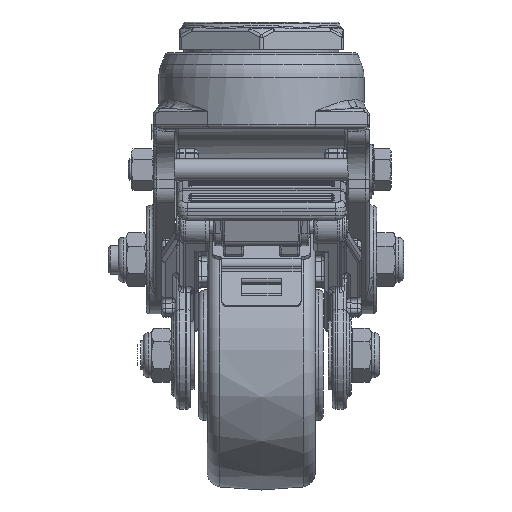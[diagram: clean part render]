
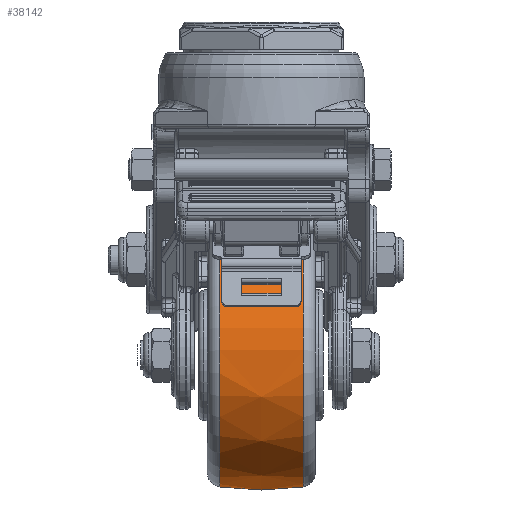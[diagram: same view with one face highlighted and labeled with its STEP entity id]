
A CAD part, left-side view. The second image highlights one B-rep face of the part: STEP entity #38142.
In plain terms, the highlighted free-form (B-spline) face has degree [2, 2] with [3, 9] control points.
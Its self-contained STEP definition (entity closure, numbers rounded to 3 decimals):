
#3147=(
BOUNDED_SURFACE()
B_SPLINE_SURFACE(2,2,((#54039,#54040,#54041,#54042,#54043,#54044,#54045,
#54046,#54047),(#54048,#54049,#54050,#54051,#54052,#54053,#54054,#54055,
#54056),(#54057,#54058,#54059,#54060,#54061,#54062,#54063,#54064,#54065)),
 .UNSPECIFIED.,.F.,.T.,.F.)
B_SPLINE_SURFACE_WITH_KNOTS((3,3),(3,2,2,2,3),(-0.156,0.156),
(-3.142,-1.571,0.,1.571,3.142),
 .UNSPECIFIED.)
GEOMETRIC_REPRESENTATION_ITEM()
RATIONAL_B_SPLINE_SURFACE(((1.,0.707,1.,0.707,1.,
0.707,1.,0.707,1.),(0.988,0.699,
0.988,0.699,0.988,0.699,
0.988,0.699,0.988),(1.,0.707,
1.,0.707,1.,0.707,1.,0.707,1.)))
REPRESENTATION_ITEM('')
SURFACE()
);
#4246=FACE_OUTER_BOUND('',#6690,.T.);
#6690=EDGE_LOOP('',(#26035,#26036,#26037,#26038,#26039,#26040,#26041,#26042));
#14947=CIRCLE('',#40621,36.594);
#14948=CIRCLE('',#40622,36.594);
#14949=CIRCLE('',#40623,36.594);
#14950=CIRCLE('',#40624,75.);
#14951=CIRCLE('',#40625,36.594);
#14952=CIRCLE('',#40626,36.594);
#14953=CIRCLE('',#40627,36.594);
#16335=VERTEX_POINT('',#54032);
#16336=VERTEX_POINT('',#54034);
#16337=VERTEX_POINT('',#54036);
#16338=VERTEX_POINT('',#54066);
#16339=VERTEX_POINT('',#54068);
#16340=VERTEX_POINT('',#54070);
#20016=EDGE_CURVE('',#16335,#16336,#14947,.T.);
#20017=EDGE_CURVE('',#16336,#16337,#14948,.T.);
#20018=EDGE_CURVE('',#16337,#16335,#14949,.T.);
#20019=EDGE_CURVE('',#16335,#16338,#14950,.T.);
#20020=EDGE_CURVE('',#16338,#16339,#14951,.T.);
#20021=EDGE_CURVE('',#16339,#16340,#14952,.T.);
#20022=EDGE_CURVE('',#16340,#16338,#14953,.T.);
#26035=ORIENTED_EDGE('',*,*,#20017,.F.);
#26036=ORIENTED_EDGE('',*,*,#20016,.F.);
#26037=ORIENTED_EDGE('',*,*,#20019,.T.);
#26038=ORIENTED_EDGE('',*,*,#20020,.T.);
#26039=ORIENTED_EDGE('',*,*,#20021,.T.);
#26040=ORIENTED_EDGE('',*,*,#20022,.T.);
#26041=ORIENTED_EDGE('',*,*,#20019,.F.);
#26042=ORIENTED_EDGE('',*,*,#20018,.F.);
#38142=ADVANCED_FACE('',(#4246),#3147,.F.);
#40621=AXIS2_PLACEMENT_3D('',#54035,#44170,#44171);
#40622=AXIS2_PLACEMENT_3D('',#54037,#44172,#44173);
#40623=AXIS2_PLACEMENT_3D('',#54038,#44174,#44175);
#40624=AXIS2_PLACEMENT_3D('',#54067,#44176,#44177);
#40625=AXIS2_PLACEMENT_3D('',#54069,#44178,#44179);
#40626=AXIS2_PLACEMENT_3D('',#54071,#44180,#44181);
#40627=AXIS2_PLACEMENT_3D('',#54072,#44182,#44183);
#44170=DIRECTION('center_axis',(0.,1.,0.));
#44171=DIRECTION('ref_axis',(0.308,0.,-0.951));
#44172=DIRECTION('center_axis',(0.,1.,0.));
#44173=DIRECTION('ref_axis',(0.308,0.,-0.951));
#44174=DIRECTION('center_axis',(0.,1.,0.));
#44175=DIRECTION('ref_axis',(0.308,0.,-0.951));
#44176=DIRECTION('center_axis',(0.951,0.,0.308));
#44177=DIRECTION('ref_axis',(-0.308,0.,0.951));
#44178=DIRECTION('center_axis',(0.,1.,0.));
#44179=DIRECTION('ref_axis',(0.308,0.,-0.951));
#44180=DIRECTION('center_axis',(0.,1.,0.));
#44181=DIRECTION('ref_axis',(0.308,0.,-0.951));
#44182=DIRECTION('center_axis',(0.,1.,0.));
#44183=DIRECTION('ref_axis',(0.308,0.,-0.951));
#54032=CARTESIAN_POINT('',(-46.265,11.62,-57.688));
#54034=CARTESIAN_POINT('',(-0.181,11.62,-81.238));
#54035=CARTESIAN_POINT('Origin',(-34.998,11.62,-92.505));
#54036=CARTESIAN_POINT('',(-69.815,11.62,-103.771));
#54037=CARTESIAN_POINT('Origin',(-34.998,11.62,-92.505));
#54038=CARTESIAN_POINT('Origin',(-34.998,11.62,-92.505));
#54039=CARTESIAN_POINT('Ctrl Pts',(-46.265,-11.62,
-57.688));
#54040=CARTESIAN_POINT('Ctrl Pts',(-11.447,-11.62,
-46.421));
#54041=CARTESIAN_POINT('Ctrl Pts',(-0.181,-11.62,
-81.238));
#54042=CARTESIAN_POINT('Ctrl Pts',(11.085,-11.62,-116.055));
#54043=CARTESIAN_POINT('Ctrl Pts',(-23.732,-11.62,
-127.322));
#54044=CARTESIAN_POINT('Ctrl Pts',(-58.549,-11.62,-138.588));
#54045=CARTESIAN_POINT('Ctrl Pts',(-69.815,-11.62,
-103.771));
#54046=CARTESIAN_POINT('Ctrl Pts',(-81.082,-11.62,-68.954));
#54047=CARTESIAN_POINT('Ctrl Pts',(-46.265,-11.62,
-57.688));
#54048=CARTESIAN_POINT('Ctrl Pts',(-46.826,0.,
-55.954));
#54049=CARTESIAN_POINT('Ctrl Pts',(-10.275,0.,
-44.127));
#54050=CARTESIAN_POINT('Ctrl Pts',(1.552,0.,
-80.677));
#54051=CARTESIAN_POINT('Ctrl Pts',(13.38,0.,
-117.228));
#54052=CARTESIAN_POINT('Ctrl Pts',(-23.171,0.,
-129.055));
#54053=CARTESIAN_POINT('Ctrl Pts',(-59.722,0.,
-140.883));
#54054=CARTESIAN_POINT('Ctrl Pts',(-71.549,0.,
-104.332));
#54055=CARTESIAN_POINT('Ctrl Pts',(-83.376,0.,
-67.781));
#54056=CARTESIAN_POINT('Ctrl Pts',(-46.826,0.,
-55.954));
#54057=CARTESIAN_POINT('Ctrl Pts',(-46.265,11.62,-57.688));
#54058=CARTESIAN_POINT('Ctrl Pts',(-11.447,11.62,-46.421));
#54059=CARTESIAN_POINT('Ctrl Pts',(-0.181,11.62,-81.238));
#54060=CARTESIAN_POINT('Ctrl Pts',(11.085,11.62,-116.055));
#54061=CARTESIAN_POINT('Ctrl Pts',(-23.732,11.62,-127.322));
#54062=CARTESIAN_POINT('Ctrl Pts',(-58.549,11.62,-138.588));
#54063=CARTESIAN_POINT('Ctrl Pts',(-69.815,11.62,-103.771));
#54064=CARTESIAN_POINT('Ctrl Pts',(-81.082,11.62,-68.954));
#54065=CARTESIAN_POINT('Ctrl Pts',(-46.265,11.62,-57.688));
#54066=CARTESIAN_POINT('',(-46.265,-11.62,-57.688));
#54067=CARTESIAN_POINT('Origin',(-23.453,0.,
-128.183));
#54068=CARTESIAN_POINT('',(-0.181,-11.62,-81.238));
#54069=CARTESIAN_POINT('Origin',(-34.998,-11.62,-92.505));
#54070=CARTESIAN_POINT('',(-69.815,-11.62,-103.771));
#54071=CARTESIAN_POINT('Origin',(-34.998,-11.62,-92.505));
#54072=CARTESIAN_POINT('Origin',(-34.998,-11.62,-92.505));
